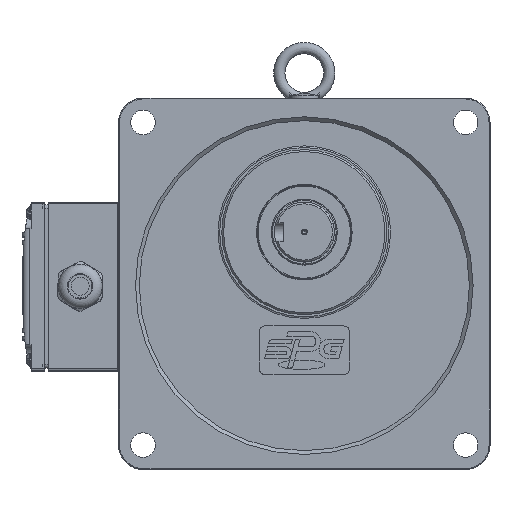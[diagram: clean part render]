
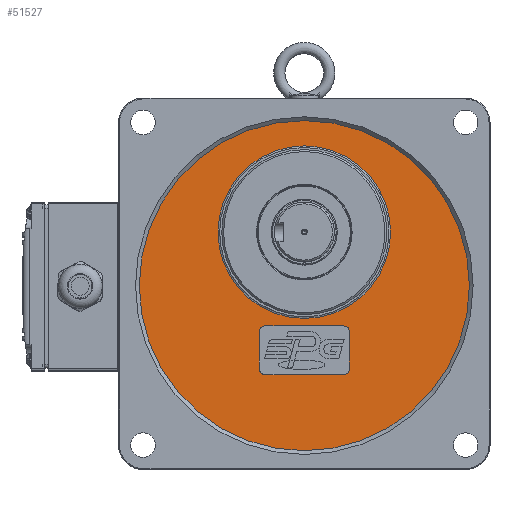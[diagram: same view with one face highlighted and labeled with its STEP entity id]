
A CAD part, top view. The second image highlights one B-rep face of the part: STEP entity #51527.
In plain terms, the highlighted planar face has unit normal (0, 0, 1).
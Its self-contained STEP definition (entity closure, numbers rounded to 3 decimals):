
#588=FACE_BOUND('',#13041,.T.);
#589=FACE_BOUND('',#13042,.T.);
#1202=PLANE('',#56375);
#3475=LINE('',#107087,#6009);
#3476=LINE('',#107091,#6010);
#3477=LINE('',#107095,#6011);
#3478=LINE('',#107099,#6012);
#6009=VECTOR('',#67256,10.);
#6010=VECTOR('',#67259,10.);
#6011=VECTOR('',#67262,10.);
#6012=VECTOR('',#67265,10.);
#9800=FACE_OUTER_BOUND('',#13040,.T.);
#13040=EDGE_LOOP('',(#41214));
#13041=EDGE_LOOP('',(#41215,#41216,#41217,#41218,#41219,#41220,#41221,#41222));
#13042=EDGE_LOOP('',(#41223));
#16372=CIRCLE('',#56373,46.);
#16374=CIRCLE('',#56376,88.);
#16375=CIRCLE('',#56377,3.);
#16376=CIRCLE('',#56378,3.);
#16377=CIRCLE('',#56379,3.);
#16378=CIRCLE('',#56380,3.);
#22431=VERTEX_POINT('',#107079);
#22432=VERTEX_POINT('',#107083);
#22433=VERTEX_POINT('',#107085);
#22434=VERTEX_POINT('',#107086);
#22435=VERTEX_POINT('',#107088);
#22436=VERTEX_POINT('',#107090);
#22437=VERTEX_POINT('',#107092);
#22438=VERTEX_POINT('',#107094);
#22439=VERTEX_POINT('',#107096);
#22440=VERTEX_POINT('',#107098);
#28929=EDGE_CURVE('',#22431,#22431,#16372,.T.);
#28931=EDGE_CURVE('',#22432,#22432,#16374,.T.);
#28932=EDGE_CURVE('',#22433,#22434,#3475,.T.);
#28933=EDGE_CURVE('',#22435,#22434,#16375,.T.);
#28934=EDGE_CURVE('',#22435,#22436,#3476,.T.);
#28935=EDGE_CURVE('',#22437,#22436,#16376,.T.);
#28936=EDGE_CURVE('',#22437,#22438,#3477,.T.);
#28937=EDGE_CURVE('',#22439,#22438,#16377,.T.);
#28938=EDGE_CURVE('',#22439,#22440,#3478,.T.);
#28939=EDGE_CURVE('',#22433,#22440,#16378,.T.);
#41214=ORIENTED_EDGE('',*,*,#28931,.T.);
#41215=ORIENTED_EDGE('',*,*,#28932,.T.);
#41216=ORIENTED_EDGE('',*,*,#28933,.F.);
#41217=ORIENTED_EDGE('',*,*,#28934,.T.);
#41218=ORIENTED_EDGE('',*,*,#28935,.F.);
#41219=ORIENTED_EDGE('',*,*,#28936,.T.);
#41220=ORIENTED_EDGE('',*,*,#28937,.F.);
#41221=ORIENTED_EDGE('',*,*,#28938,.T.);
#41222=ORIENTED_EDGE('',*,*,#28939,.F.);
#41223=ORIENTED_EDGE('',*,*,#28929,.F.);
#51527=ADVANCED_FACE('',(#9800,#588,#589),#1202,.F.);
#56373=AXIS2_PLACEMENT_3D('',#107080,#67248,#67249);
#56375=AXIS2_PLACEMENT_3D('',#107082,#67252,#67253);
#56376=AXIS2_PLACEMENT_3D('',#107084,#67254,#67255);
#56377=AXIS2_PLACEMENT_3D('',#107089,#67257,#67258);
#56378=AXIS2_PLACEMENT_3D('',#107093,#67260,#67261);
#56379=AXIS2_PLACEMENT_3D('',#107097,#67263,#67264);
#56380=AXIS2_PLACEMENT_3D('',#107100,#67266,#67267);
#67248=DIRECTION('center_axis',(0.,0.,1.));
#67249=DIRECTION('ref_axis',(-1.,0.,0.));
#67252=DIRECTION('center_axis',(0.,0.,-1.));
#67253=DIRECTION('ref_axis',(-1.,0.,0.));
#67254=DIRECTION('center_axis',(0.,0.,1.));
#67255=DIRECTION('ref_axis',(-1.,0.,0.));
#67256=DIRECTION('',(0.,1.,0.));
#67257=DIRECTION('center_axis',(0.,0.,1.));
#67258=DIRECTION('ref_axis',(-0.707,0.707,0.));
#67259=DIRECTION('',(1.,0.,0.));
#67260=DIRECTION('center_axis',(0.,0.,1.));
#67261=DIRECTION('ref_axis',(0.707,0.707,0.));
#67262=DIRECTION('',(0.,-1.,0.));
#67263=DIRECTION('center_axis',(0.,0.,1.));
#67264=DIRECTION('ref_axis',(0.707,-0.707,0.));
#67265=DIRECTION('',(-1.,0.,0.));
#67266=DIRECTION('center_axis',(0.,0.,1.));
#67267=DIRECTION('ref_axis',(-0.707,-0.707,0.));
#107079=CARTESIAN_POINT('',(-2.66,-8.063,31.));
#107080=CARTESIAN_POINT('Origin',(43.34,-8.063,31.));
#107082=CARTESIAN_POINT('Origin',(43.34,-36.563,31.));
#107083=CARTESIAN_POINT('',(131.34,-36.563,31.));
#107084=CARTESIAN_POINT('Origin',(43.34,-36.563,31.));
#107085=CARTESIAN_POINT('',(19.34,-81.063,31.));
#107086=CARTESIAN_POINT('',(19.34,-61.063,31.));
#107087=CARTESIAN_POINT('',(19.34,-47.313,31.));
#107088=CARTESIAN_POINT('',(22.34,-58.063,31.));
#107089=CARTESIAN_POINT('Origin',(22.34,-61.063,31.));
#107090=CARTESIAN_POINT('',(64.34,-58.063,31.));
#107091=CARTESIAN_POINT('',(55.34,-58.063,31.));
#107092=CARTESIAN_POINT('',(67.34,-61.063,31.));
#107093=CARTESIAN_POINT('Origin',(64.34,-61.063,31.));
#107094=CARTESIAN_POINT('',(67.34,-81.063,31.));
#107095=CARTESIAN_POINT('',(67.34,-60.313,31.));
#107096=CARTESIAN_POINT('',(64.34,-84.063,31.));
#107097=CARTESIAN_POINT('Origin',(64.34,-81.063,31.));
#107098=CARTESIAN_POINT('',(22.34,-84.063,31.));
#107099=CARTESIAN_POINT('',(31.34,-84.063,31.));
#107100=CARTESIAN_POINT('Origin',(22.34,-81.063,31.));
